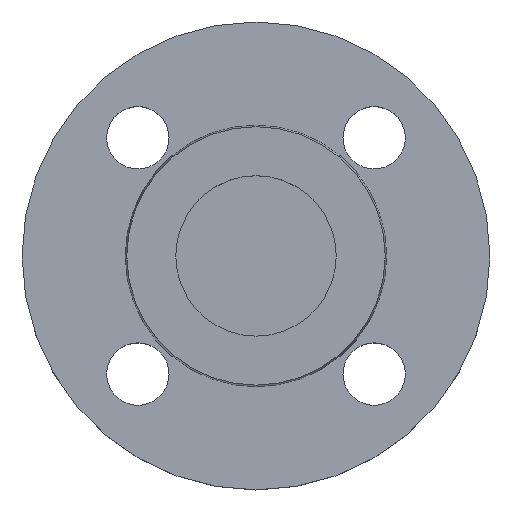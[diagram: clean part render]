
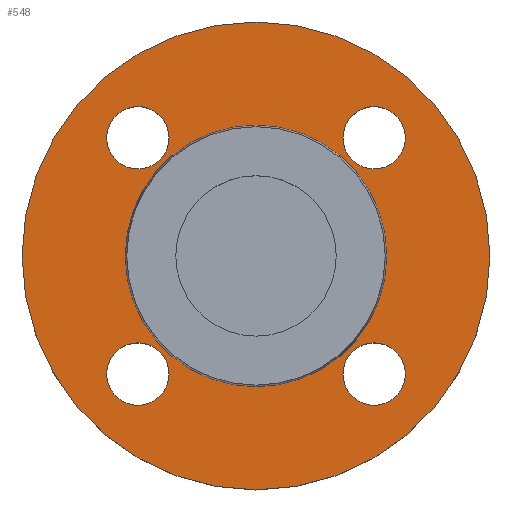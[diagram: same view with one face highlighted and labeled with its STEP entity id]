
A CAD part, top view. The second image highlights one B-rep face of the part: STEP entity #548.
In plain terms, the highlighted planar face has unit normal (0, 0, 1).
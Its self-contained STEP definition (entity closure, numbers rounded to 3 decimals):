
#1 = DIRECTION ( 'NONE',  ( 0., 0., -1. ) ) ;
#17 = DIRECTION ( 'NONE',  ( 1., 0., 0. ) ) ;
#18 = DIRECTION ( 'NONE',  ( -1., 0., 0. ) ) ;
#19 = DIRECTION ( 'NONE',  ( 0., 0., -1. ) ) ;
#21 = CARTESIAN_POINT ( 'NONE',  ( 26.517, -26.517, -2. ) ) ;
#41 = AXIS2_PLACEMENT_3D ( 'NONE', #176, #721, #685 ) ;
#47 = CIRCLE ( 'NONE', #41, 7. ) ;
#48 = AXIS2_PLACEMENT_3D ( 'NONE', #396, #1, #83 ) ;
#58 = DIRECTION ( 'NONE',  ( 0., 0., 1. ) ) ;
#68 = CARTESIAN_POINT ( 'NONE',  ( 0., 0., -2. ) ) ;
#69 = DIRECTION ( 'NONE',  ( -1., 0., 0. ) ) ;
#83 = DIRECTION ( 'NONE',  ( 1., 0., 0. ) ) ;
#86 = CARTESIAN_POINT ( 'NONE',  ( 33.517, -26.517, -2. ) ) ;
#95 = CARTESIAN_POINT ( 'NONE',  ( -33.517, -26.517, -2. ) ) ;
#98 = DIRECTION ( 'NONE',  ( 1., 0., 0. ) ) ;
#101 = DIRECTION ( 'NONE',  ( 0., 0., -1. ) ) ;
#103 = CARTESIAN_POINT ( 'NONE',  ( 26.517, -26.517, -2. ) ) ;
#124 = CIRCLE ( 'NONE', #358, 7. ) ;
#137 = EDGE_CURVE ( 'NONE', #582, #514, #798, .T. ) ;
#138 = PLANE ( 'NONE',  #534 ) ;
#144 = EDGE_LOOP ( 'NONE', ( #325, #331 ) ) ;
#146 = CARTESIAN_POINT ( 'NONE',  ( 0., 0., -2. ) ) ;
#160 = DIRECTION ( 'NONE',  ( 0., 0., -1. ) ) ;
#164 = CARTESIAN_POINT ( 'NONE',  ( 0., 0., -2. ) ) ;
#166 = AXIS2_PLACEMENT_3D ( 'NONE', #164, #565, #760 ) ;
#168 = FACE_OUTER_BOUND ( 'NONE', #504, .T. ) ;
#176 = CARTESIAN_POINT ( 'NONE',  ( -26.517, 26.517, -2. ) ) ;
#181 = DIRECTION ( 'NONE',  ( 0., 0., -1. ) ) ;
#226 = DIRECTION ( 'NONE',  ( 0., 0., -1. ) ) ;
#230 = EDGE_CURVE ( 'NONE', #514, #582, #124, .T. ) ;
#234 = CARTESIAN_POINT ( 'NONE',  ( -19.517, 26.517, -2. ) ) ;
#239 = CIRCLE ( 'NONE', #241, 7. ) ;
#241 = AXIS2_PLACEMENT_3D ( 'NONE', #354, #734, #602 ) ;
#242 = EDGE_LOOP ( 'NONE', ( #332, #334 ) ) ;
#243 = CARTESIAN_POINT ( 'NONE',  ( -26.517, -26.517, -2. ) ) ;
#247 = FACE_BOUND ( 'NONE', #242, .T. ) ;
#250 = CARTESIAN_POINT ( 'NONE',  ( 33.517, 26.517, -2. ) ) ;
#251 = FACE_BOUND ( 'NONE', #588, .T. ) ;
#253 = AXIS2_PLACEMENT_3D ( 'NONE', #243, #160, #717 ) ;
#264 = CARTESIAN_POINT ( 'NONE',  ( 29.353, 0., -2. ) ) ;
#325 = ORIENTED_EDGE ( 'NONE', *, *, #230, .T. ) ;
#331 = ORIENTED_EDGE ( 'NONE', *, *, #137, .T. ) ;
#332 = ORIENTED_EDGE ( 'NONE', *, *, #559, .T. ) ;
#334 = ORIENTED_EDGE ( 'NONE', *, *, #501, .T. ) ;
#335 = ORIENTED_EDGE ( 'NONE', *, *, #447, .T. ) ;
#336 = ORIENTED_EDGE ( 'NONE', *, *, #677, .T. ) ;
#339 = CARTESIAN_POINT ( 'NONE',  ( 0., 0., -2. ) ) ;
#343 = ORIENTED_EDGE ( 'NONE', *, *, #737, .T. ) ;
#344 = VERTEX_POINT ( 'NONE', #550 ) ;
#346 = ORIENTED_EDGE ( 'NONE', *, *, #595, .T. ) ;
#349 = ORIENTED_EDGE ( 'NONE', *, *, #828, .T. ) ;
#351 = ORIENTED_EDGE ( 'NONE', *, *, #657, .T. ) ;
#352 = ORIENTED_EDGE ( 'NONE', *, *, #500, .F. ) ;
#354 = CARTESIAN_POINT ( 'NONE',  ( 26.517, 26.517, -2. ) ) ;
#356 = ORIENTED_EDGE ( 'NONE', *, *, #368, .F. ) ;
#358 = AXIS2_PLACEMENT_3D ( 'NONE', #21, #19, #17 ) ;
#368 = EDGE_CURVE ( 'NONE', #540, #590, #799, .T. ) ;
#383 = DIRECTION ( 'NONE',  ( -1., 0., 0. ) ) ;
#391 = CIRCLE ( 'NONE', #166, 52.5 ) ;
#392 = CARTESIAN_POINT ( 'NONE',  ( -26.517, -26.517, -2. ) ) ;
#396 = CARTESIAN_POINT ( 'NONE',  ( -26.517, 26.517, -2. ) ) ;
#401 = CARTESIAN_POINT ( 'NONE',  ( -52.5, 0., -2. ) ) ;
#408 = AXIS2_PLACEMENT_3D ( 'NONE', #68, #541, #383 ) ;
#421 = CIRCLE ( 'NONE', #408, 29.353 ) ;
#442 = VERTEX_POINT ( 'NONE', #671 ) ;
#447 = EDGE_CURVE ( 'NONE', #461, #584, #622, .T. ) ;
#454 = DIRECTION ( 'NONE',  ( 1., 0., 0. ) ) ;
#461 = VERTEX_POINT ( 'NONE', #234 ) ;
#466 = CARTESIAN_POINT ( 'NONE',  ( 19.517, -26.517, -2. ) ) ;
#473 = AXIS2_PLACEMENT_3D ( 'NONE', #745, #670, #556 ) ;
#474 = AXIS2_PLACEMENT_3D ( 'NONE', #339, #181, #18 ) ;
#487 = CIRCLE ( 'NONE', #474, 29.353 ) ;
#497 = VERTEX_POINT ( 'NONE', #787 ) ;
#500 = EDGE_CURVE ( 'NONE', #590, #540, #391, .T. ) ;
#501 = EDGE_CURVE ( 'NONE', #535, #578, #665, .T. ) ;
#504 = EDGE_LOOP ( 'NONE', ( #352, #356 ) ) ;
#507 = EDGE_LOOP ( 'NONE', ( #349, #351 ) ) ;
#514 = VERTEX_POINT ( 'NONE', #86 ) ;
#529 = EDGE_LOOP ( 'NONE', ( #343, #346 ) ) ;
#534 = AXIS2_PLACEMENT_3D ( 'NONE', #264, #58, #454 ) ;
#535 = VERTEX_POINT ( 'NONE', #95 ) ;
#540 = VERTEX_POINT ( 'NONE', #401 ) ;
#541 = DIRECTION ( 'NONE',  ( 0., 0., -1. ) ) ;
#548 = ADVANCED_FACE ( 'NONE', ( #679, #247, #251, #674, #698, #168 ), #138, .T. ) ;
#550 = CARTESIAN_POINT ( 'NONE',  ( 29.353, 0., -2. ) ) ;
#556 = DIRECTION ( 'NONE',  ( 1., 0., 0. ) ) ;
#559 = EDGE_CURVE ( 'NONE', #578, #535, #623, .T. ) ;
#565 = DIRECTION ( 'NONE',  ( 0., 0., -1. ) ) ;
#571 = VERTEX_POINT ( 'NONE', #250 ) ;
#578 = VERTEX_POINT ( 'NONE', #702 ) ;
#582 = VERTEX_POINT ( 'NONE', #466 ) ;
#584 = VERTEX_POINT ( 'NONE', #823 ) ;
#588 = EDGE_LOOP ( 'NONE', ( #335, #336 ) ) ;
#590 = VERTEX_POINT ( 'NONE', #681 ) ;
#595 = EDGE_CURVE ( 'NONE', #497, #571, #661, .T. ) ;
#602 = DIRECTION ( 'NONE',  ( 1., 0., 0. ) ) ;
#622 = CIRCLE ( 'NONE', #48, 7. ) ;
#623 = CIRCLE ( 'NONE', #641, 7. ) ;
#624 = DIRECTION ( 'NONE',  ( 1., 0., 0. ) ) ;
#641 = AXIS2_PLACEMENT_3D ( 'NONE', #392, #742, #624 ) ;
#657 = EDGE_CURVE ( 'NONE', #344, #442, #487, .T. ) ;
#661 = CIRCLE ( 'NONE', #473, 7. ) ;
#665 = CIRCLE ( 'NONE', #253, 7. ) ;
#670 = DIRECTION ( 'NONE',  ( 0., 0., -1. ) ) ;
#671 = CARTESIAN_POINT ( 'NONE',  ( -29.353, 0., -2. ) ) ;
#674 = FACE_BOUND ( 'NONE', #529, .T. ) ;
#677 = EDGE_CURVE ( 'NONE', #584, #461, #47, .T. ) ;
#679 = FACE_BOUND ( 'NONE', #144, .T. ) ;
#681 = CARTESIAN_POINT ( 'NONE',  ( 52.5, 0., -2. ) ) ;
#685 = DIRECTION ( 'NONE',  ( 1., 0., 0. ) ) ;
#686 = AXIS2_PLACEMENT_3D ( 'NONE', #103, #101, #98 ) ;
#687 = AXIS2_PLACEMENT_3D ( 'NONE', #146, #226, #69 ) ;
#698 = FACE_BOUND ( 'NONE', #507, .T. ) ;
#702 = CARTESIAN_POINT ( 'NONE',  ( -19.517, -26.517, -2. ) ) ;
#717 = DIRECTION ( 'NONE',  ( 1., 0., 0. ) ) ;
#721 = DIRECTION ( 'NONE',  ( 0., 0., -1. ) ) ;
#734 = DIRECTION ( 'NONE',  ( 0., 0., -1. ) ) ;
#737 = EDGE_CURVE ( 'NONE', #571, #497, #239, .T. ) ;
#742 = DIRECTION ( 'NONE',  ( 0., 0., -1. ) ) ;
#745 = CARTESIAN_POINT ( 'NONE',  ( 26.517, 26.517, -2. ) ) ;
#760 = DIRECTION ( 'NONE',  ( -1., 0., 0. ) ) ;
#787 = CARTESIAN_POINT ( 'NONE',  ( 19.517, 26.517, -2. ) ) ;
#798 = CIRCLE ( 'NONE', #686, 7. ) ;
#799 = CIRCLE ( 'NONE', #687, 52.5 ) ;
#823 = CARTESIAN_POINT ( 'NONE',  ( -33.517, 26.517, -2. ) ) ;
#828 = EDGE_CURVE ( 'NONE', #442, #344, #421, .T. ) ;
